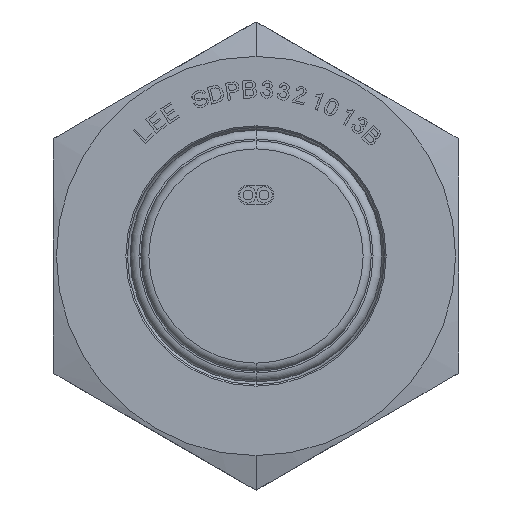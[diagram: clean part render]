
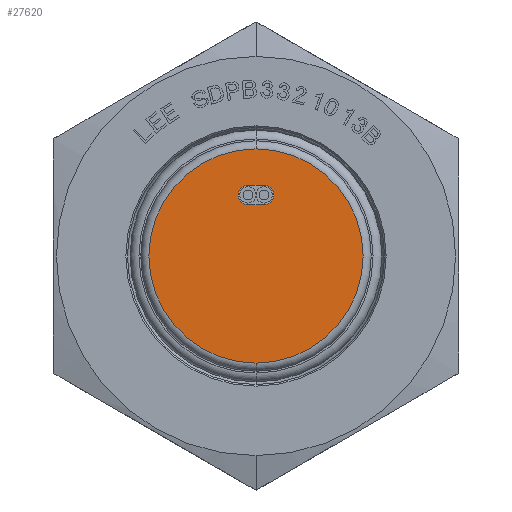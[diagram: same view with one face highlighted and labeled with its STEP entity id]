
A CAD part, left-side view. The second image highlights one B-rep face of the part: STEP entity #27620.
In plain terms, the highlighted planar face has unit normal (-1, 0, 0).
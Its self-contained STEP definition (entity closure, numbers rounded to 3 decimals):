
#23640=CARTESIAN_POINT('',(-35.894,15.07,
-0.635));
#23650=VERTEX_POINT('',#23640);
#23830=CARTESIAN_POINT('',(-35.894,13.546,
-0.635));
#23840=VERTEX_POINT('',#23830);
#23870=CARTESIAN_POINT('',(-35.894,14.308,
-0.635));
#23880=DIRECTION('',(1.,0.,0.));
#23890=DIRECTION('',(0.,0.,-1.));
#23900=AXIS2_PLACEMENT_3D('',#23870,#23880,#23890);
#23910=CIRCLE('',#23900,0.762);
#23920=EDGE_CURVE('',#23840,#23650,#23910,.T.);
#27020=CARTESIAN_POINT('',(-35.894,17.914,0.));
#27030=VERTEX_POINT('',#27020);
#27120=CARTESIAN_POINT('',(-35.894,1.15,0.));
#27130=VERTEX_POINT('',#27120);
#27160=CARTESIAN_POINT('',(-35.894,9.532,0.));
#27170=DIRECTION('',(-1.,0.,0.));
#27180=DIRECTION('',(0.,1.,0.));
#27190=AXIS2_PLACEMENT_3D('',#27160,#27170,#27180);
#27200=CIRCLE('',#27190,8.382);
#27210=EDGE_CURVE('',#27130,#27030,#27200,.T.);
#27260=CARTESIAN_POINT('',(-35.894,13.723,0.));
#27270=DIRECTION('',(1.,0.,0.));
#27280=DIRECTION('',(0.,-1.,0.));
#27290=AXIS2_PLACEMENT_3D('',#27260,#27270,#27280);
#27300=PLANE('',#27290);
#27310=EDGE_CURVE('',#27030,#27130,#27200,.T.);
#27320=ORIENTED_EDGE('',*,*,#27310,.T.);
#27330=ORIENTED_EDGE('',*,*,#27210,.T.);
#27340=EDGE_LOOP('',(#27330,#27320));
#27350=FACE_OUTER_BOUND('',#27340,.T.);
#27360=CARTESIAN_POINT('',(-35.894,14.308,
0.635));
#27370=DIRECTION('',(-1.,0.,0.));
#27380=DIRECTION('',(0.,0.,-1.));
#27390=AXIS2_PLACEMENT_3D('',#27360,#27370,#27380);
#27400=CIRCLE('',#27390,0.762);
#27410=CARTESIAN_POINT('',(-35.894,13.546,
0.635));
#27420=VERTEX_POINT('',#27410);
#27430=CARTESIAN_POINT('',(-35.894,15.07,
0.635));
#27440=VERTEX_POINT('',#27430);
#27450=EDGE_CURVE('',#27420,#27440,#27400,.T.);
#27460=ORIENTED_EDGE('',*,*,#27450,.F.);
#27470=CARTESIAN_POINT('',(-35.894,15.07,0.));
#27480=DIRECTION('',(0.,0.,1.));
#27490=VECTOR('',#27480,1.);
#27500=LINE('',#27470,#27490);
#27510=EDGE_CURVE('',#23650,#27440,#27500,.T.);
#27520=ORIENTED_EDGE('',*,*,#27510,.T.);
#27530=ORIENTED_EDGE('',*,*,#23920,.T.);
#27540=CARTESIAN_POINT('',(-35.894,13.546,0.));
#27550=DIRECTION('',(0.,0.,-1.));
#27560=VECTOR('',#27550,1.);
#27570=LINE('',#27540,#27560);
#27580=EDGE_CURVE('',#27420,#23840,#27570,.T.);
#27590=ORIENTED_EDGE('',*,*,#27580,.T.);
#27600=EDGE_LOOP('',(#27590,#27530,#27520,#27460));
#27610=FACE_BOUND('',#27600,.T.);
#27620=ADVANCED_FACE('',(#27350,#27610),#27300,.F.);
